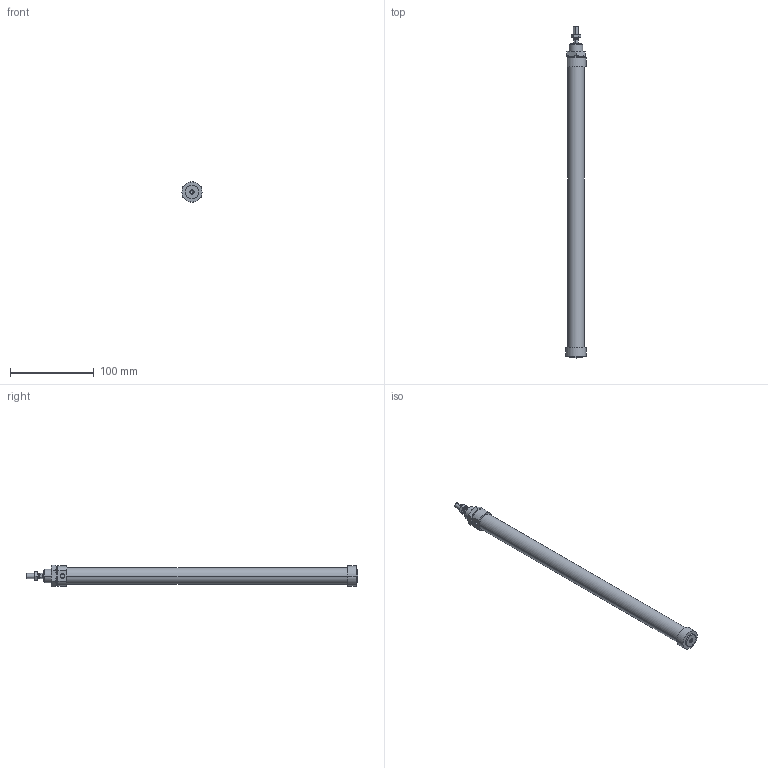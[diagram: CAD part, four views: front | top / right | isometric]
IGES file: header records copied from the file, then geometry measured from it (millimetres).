
Global section: file name: No Iges File Name specified; native system: AutoDesk Inventor R6.0; preprocessor: AutoDesk Inventor Iges Exporter R6.0; author: No Author specified; organization: No Organization specified; date: 20030402.184238; units: millimetre
Bounding box: 24 x 396 x 25.4 mm (x, y, z)
Volume: 120542.9 mm3; surface area: 39121.1 mm2
Topology: 4 solids, 4 shells, 108 faces, 229 edges, 135 vertices
Faces by surface type: cone 34, plane 33, bspline 21, cylinder 16, revolution 4
